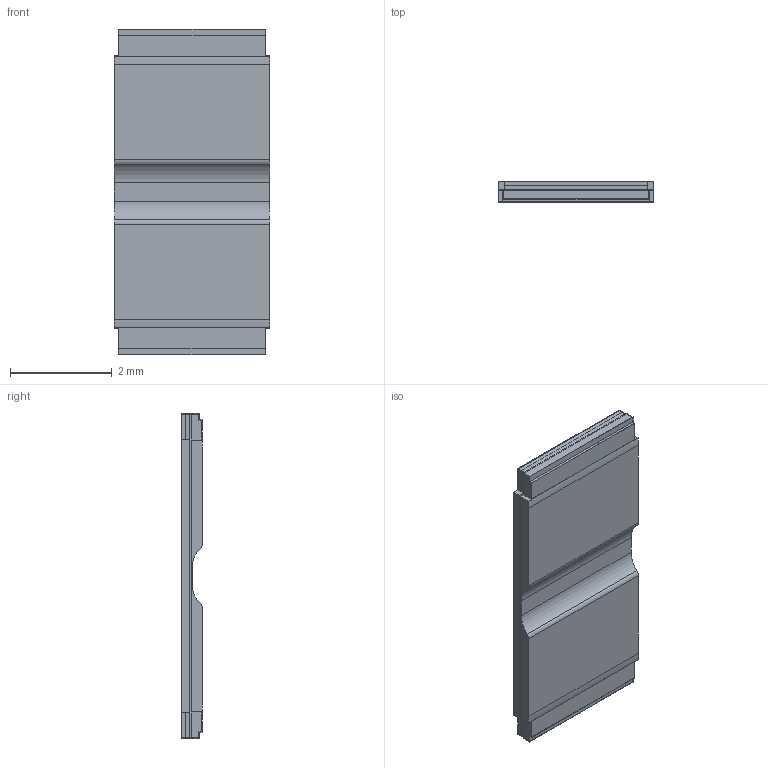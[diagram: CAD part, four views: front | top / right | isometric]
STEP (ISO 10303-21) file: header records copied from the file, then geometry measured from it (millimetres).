
FILE_DESCRIPTION (( 'STEP AP214' ), '1' );
FILE_NAME ('Assembly 473.STEP', '2023-05-03T21:07:03', ( '' ), ( '' ), 'SwSTEP 2.0', 'SolidWorks 2022', '' );
FILE_SCHEMA (( 'AUTOMOTIVE_DESIGN' ));
Length unit declared in the file: inch
Products named in the file (9): Pyralux; Tin PlatingS; Manganin 473; Resistor Coverlay 473; Copper Terminals; Copper Coverlay - AJ; Nickel Plating; Copper Heat Sinks - AJ; Assembly 473
Assembly tree (10 placements, depth 2):
  Assembly 473
    Manganin 473
    Copper Terminals
    Copper Heat Sinks - AJ
    Nickel Plating  x2
    Tin PlatingS  x2
    Copper Coverlay - AJ
    Resistor Coverlay 473
    Pyralux
Bounding box: 3.05 x 0.42 x 6.38 mm (x, y, z)
Volume: 7.4 mm3; surface area: 219.6 mm2
Topology: 12 solids, 12 shells, 252 faces, 680 edges, 452 vertices
Faces by surface type: plane 214, cylinder 38
Entity records: 6532 total; most frequent: CARTESIAN_POINT 1085, ORIENTED_EDGE 1052, DIRECTION 1020, EDGE_CURVE 526, LINE 450, VECTOR 450, VERTEX_POINT 350, AXIS2_PLACEMENT_3D 285
